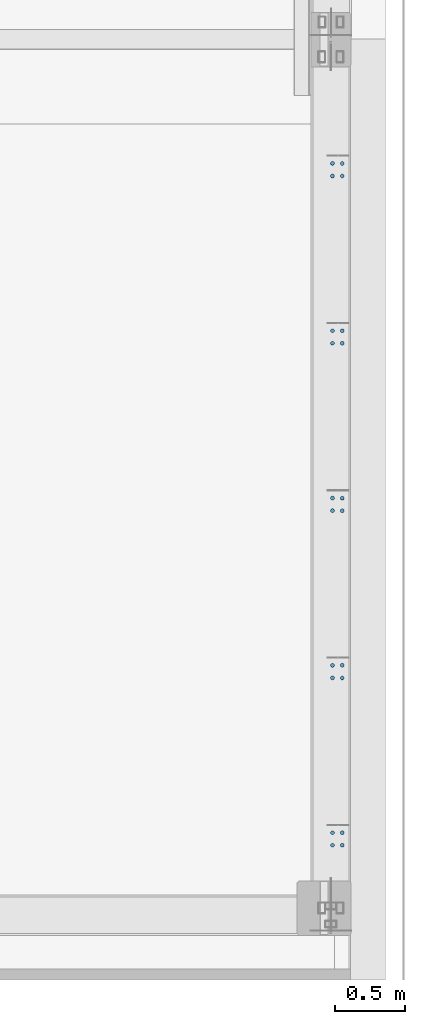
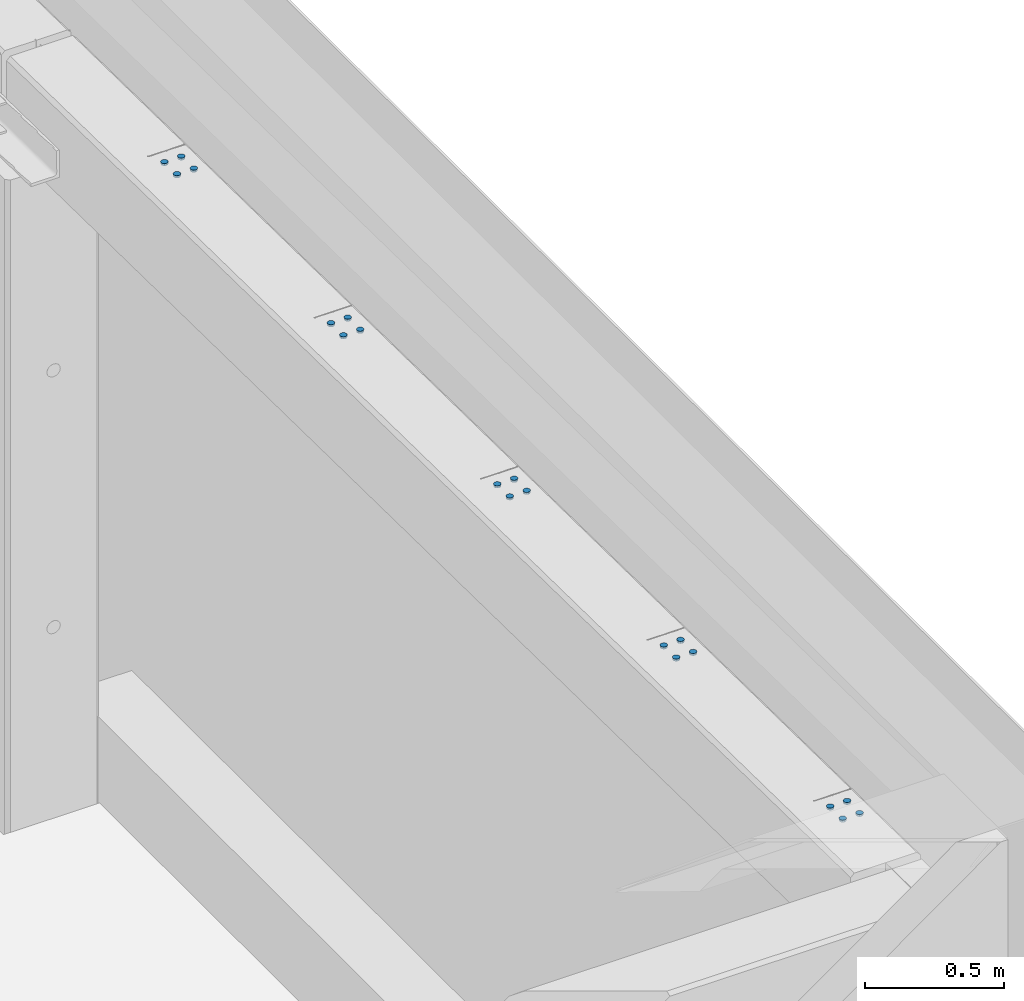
# One storey, part 4 of 186: 20 columns.
"""IFC4X3_ADD2 building model written with IfcOpenShell, lengths in millimetres."""

from ifc_helpers import new_model, si_unit, direction, frame, origin_with_axes, place, context, subcontext, project, spatial, polyline, outline, extrude, element, save


model = new_model("IFC4X3_ADD2")

# Units and contexts
model_context = context("Model", 3, precision=1e-05, world=origin_with_axes(), true_north=direction((0.0, 1.0)))
body_context = subcontext(model_context, "Body", "Model", "MODEL_VIEW")
ifc_project = project(units=[si_unit("LENGTHUNIT", "METRE", prefix="MILLI"), si_unit("AREAUNIT", "SQUARE_METRE"), si_unit("VOLUMEUNIT", "CUBIC_METRE"), si_unit("PLANEANGLEUNIT", "RADIAN"), si_unit("TIMEUNIT", "SECOND"), si_unit("MASSUNIT", "GRAM")], contexts=[model_context])

# Site, building, storey
site_placement = place(None, origin_with_axes())
site = spatial("IfcSite", under=ifc_project, at=site_placement, Name="Site", CompositionType="ELEMENT")
building_placement = place(site_placement, origin_with_axes())
building = spatial("IfcBuilding", under=site, at=building_placement, Name="IFC Building Story")
storey_placement = place(building_placement, frame((0.0, 0.0, 4370.0), z_axis=(0.0, 0.0, 1.0), x_axis=(1.0, 0.0, 0.0)))
storey = spatial("IfcBuildingStorey", under=building, at=storey_placement, Name="ETAGE 10 (1)", Elevation=4370.0)

# Columns
column_1_placement = place(storey_placement, frame((48432.12972448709, -8996.891525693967, 3279.524493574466), z_axis=(0.0, 0.01500926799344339, 0.9998873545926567), x_axis=(-0.2588190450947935, -0.9658170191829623, 0.01449783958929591)))
element("IfcColumn", 1, at=column_1_placement, inside=storey, Name="ZW9", ObjectType="D28", context=body_context, shape_type="SweptSolid", body=[
    extrude(outline(polyline([(-13.52296156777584, -3.623466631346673), (-13.52296156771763, 3.623466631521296), (-9.899494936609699, 9.899494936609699), (-3.623466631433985, 13.52296156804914), (3.623466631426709, 13.52296156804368), (9.89949493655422, 9.899494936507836), (13.52296156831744, 3.623466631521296), (13.52296156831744, -3.623466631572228), (9.899494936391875, -9.899494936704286), (3.623466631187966, -13.52296156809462), (-3.623466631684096, -13.52296156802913), (-9.899494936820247, -9.899494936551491), (-13.52296156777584, -3.623466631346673)])), frame((13.66736604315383, 13.56262032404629, -0.04070861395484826), z_axis=(0.0, 0.0, 1.0), x_axis=(1.0, 0.0, 0.0)), (0.0, 0.0, 1.0), 10.00000000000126),
])
column_2_placement = place(storey_placement, frame((48362.1297244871, -8996.89152569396, 3279.524493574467), z_axis=(0.0, 0.01500926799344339, 0.9998873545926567), x_axis=(-0.2588190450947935, -0.9658170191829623, 0.01449783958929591)))
element("IfcColumn", 2, at=column_2_placement, inside=storey, Name="ZW9", ObjectType="D28", context=body_context, shape_type="SweptSolid", body=[
    extrude(outline(polyline([(-13.52296156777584, -3.623466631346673), (-13.52296156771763, 3.623466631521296), (-9.899494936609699, 9.899494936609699), (-3.623466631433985, 13.52296156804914), (3.623466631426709, 13.52296156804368), (9.89949493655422, 9.899494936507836), (13.52296156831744, 3.623466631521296), (13.52296156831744, -3.623466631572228), (9.89949493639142, -9.899494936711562), (3.623466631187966, -13.52296156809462), (-3.623466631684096, -13.52296156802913), (-9.899494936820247, -9.899494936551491), (-13.52296156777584, -3.623466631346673)])), frame((13.66736604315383, 13.56262032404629, -0.04070861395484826), z_axis=(0.0, 0.0, 1.0), x_axis=(1.0, 0.0, 0.0)), (0.0, 0.0, 1.0), 10.0000000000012),
])
column_3_placement = place(storey_placement, frame((48362.1297244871, -8906.901663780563, 3278.17365945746), z_axis=(0.0, 0.01500926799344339, 0.9998873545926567), x_axis=(-0.2588190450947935, -0.9658170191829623, 0.01449783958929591)))
element("IfcColumn", 3, at=column_3_placement, inside=storey, Name="ZW9", ObjectType="D28", context=body_context, shape_type="SweptSolid", body=[
    extrude(outline(polyline([(-13.52296156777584, -3.623466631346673), (-13.52296156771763, 3.623466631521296), (-9.899494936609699, 9.899494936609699), (-3.623466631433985, 13.52296156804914), (3.623466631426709, 13.52296156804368), (9.89949493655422, 9.899494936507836), (13.52296156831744, 3.623466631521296), (13.52296156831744, -3.623466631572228), (9.899494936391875, -9.899494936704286), (3.623466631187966, -13.52296156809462), (-3.623466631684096, -13.52296156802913), (-9.899494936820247, -9.899494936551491), (-13.52296156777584, -3.623466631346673)])), frame((13.66736604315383, 13.56262032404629, -0.04070861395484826), z_axis=(0.0, 0.0, 1.0), x_axis=(1.0, 0.0, 0.0)), (0.0, 0.0, 1.0), 10.00000000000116),
])
column_4_placement = place(storey_placement, frame((48432.12972448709, -8906.901663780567, 3278.17365945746), z_axis=(0.0, 0.01500926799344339, 0.9998873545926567), x_axis=(-0.2588190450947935, -0.9658170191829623, 0.01449783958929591)))
element("IfcColumn", 4, at=column_4_placement, inside=storey, Name="ZW9", ObjectType="D28", context=body_context, shape_type="SweptSolid", body=[
    extrude(outline(polyline([(-13.52296156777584, -3.623466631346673), (-13.52296156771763, 3.623466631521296), (-9.899494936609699, 9.899494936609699), (-3.623466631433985, 13.52296156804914), (3.623466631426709, 13.52296156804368), (9.89949493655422, 9.899494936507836), (13.52296156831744, 3.623466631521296), (13.52296156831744, -3.623466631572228), (9.899494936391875, -9.899494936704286), (3.623466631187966, -13.52296156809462), (-3.623466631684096, -13.52296156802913), (-9.899494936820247, -9.899494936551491), (-13.52296156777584, -3.623466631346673)])), frame((13.66736604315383, 13.56262032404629, -0.04070861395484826), z_axis=(0.0, 0.0, 1.0), x_axis=(1.0, 0.0, 0.0)), (0.0, 0.0, 1.0), 10.00000000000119),
])
column_5_placement = place(storey_placement, frame((48432.12972448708, -10196.89228863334, 3298.177493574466), z_axis=(0.0, 0.01500926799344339, 0.9998873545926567), x_axis=(-0.2588190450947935, -0.9658170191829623, 0.01449783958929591)))
element("IfcColumn", 5, at=column_5_placement, inside=storey, Name="ZW9", ObjectType="D28", context=body_context, shape_type="SweptSolid", body=[
    extrude(outline(polyline([(-13.52296156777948, -3.623466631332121), (-13.52296156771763, 3.623466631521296), (-9.899494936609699, 9.899494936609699), (-3.623466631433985, 13.52296156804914), (3.623466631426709, 13.52296156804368), (9.89949493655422, 9.899494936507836), (13.52296156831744, 3.623466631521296), (13.52296156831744, -3.623466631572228), (9.899494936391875, -9.899494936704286), (3.623466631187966, -13.52296156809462), (-3.623466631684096, -13.52296156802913), (-9.899494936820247, -9.899494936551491), (-13.52296156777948, -3.623466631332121)])), frame((13.66736604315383, 13.56262032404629, -0.04070861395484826), z_axis=(0.0, 0.0, 1.0), x_axis=(1.0, 0.0, 0.0)), (0.0, 0.0, 1.0), 10.00000000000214),
])
column_6_placement = place(storey_placement, frame((48362.1297244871, -10196.89228863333, 3298.177493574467), z_axis=(0.0, 0.01500926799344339, 0.9998873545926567), x_axis=(-0.2588190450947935, -0.9658170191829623, 0.01449783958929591)))
element("IfcColumn", 6, at=column_6_placement, inside=storey, Name="ZW9", ObjectType="D28", context=body_context, shape_type="SweptSolid", body=[
    extrude(outline(polyline([(-13.52296156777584, -3.623466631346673), (-13.52296156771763, 3.623466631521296), (-9.899494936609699, 9.899494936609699), (-3.623466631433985, 13.52296156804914), (3.623466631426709, 13.52296156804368), (9.89949493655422, 9.899494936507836), (13.52296156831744, 3.623466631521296), (13.52296156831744, -3.623466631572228), (9.89949493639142, -9.899494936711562), (3.623466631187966, -13.52296156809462), (-3.623466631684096, -13.52296156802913), (-9.899494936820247, -9.899494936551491), (-13.52296156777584, -3.623466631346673)])), frame((13.66736604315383, 13.56262032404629, -0.04070861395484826), z_axis=(0.0, 0.0, 1.0), x_axis=(1.0, 0.0, 0.0)), (0.0, 0.0, 1.0), 10.00000000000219),
])
column_7_placement = place(storey_placement, frame((48362.1297244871, -10106.90242671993, 3296.826659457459), z_axis=(0.0, 0.01500926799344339, 0.9998873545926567), x_axis=(-0.2588190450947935, -0.9658170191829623, 0.01449783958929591)))
element("IfcColumn", 7, at=column_7_placement, inside=storey, Name="ZW9", ObjectType="D28", context=body_context, shape_type="SweptSolid", body=[
    extrude(outline(polyline([(-13.52296156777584, -3.623466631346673), (-13.52296156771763, 3.623466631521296), (-9.899494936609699, 9.899494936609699), (-3.623466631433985, 13.52296156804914), (3.623466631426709, 13.52296156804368), (9.89949493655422, 9.899494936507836), (13.52296156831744, 3.623466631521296), (13.52296156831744, -3.623466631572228), (9.899494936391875, -9.899494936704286), (3.623466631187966, -13.52296156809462), (-3.623466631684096, -13.52296156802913), (-9.899494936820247, -9.899494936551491), (-13.52296156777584, -3.623466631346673)])), frame((13.66736604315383, 13.56262032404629, -0.04070861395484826), z_axis=(0.0, 0.0, 1.0), x_axis=(1.0, 0.0, 0.0)), (0.0, 0.0, 1.0), 10.00000000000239),
])
column_8_placement = place(storey_placement, frame((48432.12972448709, -10106.90242671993, 3296.826659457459), z_axis=(0.0, 0.01500926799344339, 0.9998873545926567), x_axis=(-0.2588190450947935, -0.9658170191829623, 0.01449783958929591)))
element("IfcColumn", 8, at=column_8_placement, inside=storey, Name="ZW9", ObjectType="D28", context=body_context, shape_type="SweptSolid", body=[
    extrude(outline(polyline([(-13.52296156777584, -3.623466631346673), (-13.52296156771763, 3.623466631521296), (-9.899494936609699, 9.899494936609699), (-3.623466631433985, 13.52296156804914), (3.623466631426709, 13.52296156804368), (9.89949493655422, 9.899494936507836), (13.52296156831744, 3.623466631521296), (13.52296156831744, -3.623466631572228), (9.899494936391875, -9.899494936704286), (3.623466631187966, -13.52296156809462), (-3.623466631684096, -13.52296156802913), (-9.899494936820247, -9.899494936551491), (-13.52296156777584, -3.623466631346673)])), frame((13.66736604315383, 13.56262032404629, -0.04070861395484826), z_axis=(0.0, 0.0, 1.0), x_axis=(1.0, 0.0, 0.0)), (0.0, 0.0, 1.0), 10.0000000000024),
])
column_9_placement = place(storey_placement, frame((48432.12972448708, -11396.89305157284, 3316.82849357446), z_axis=(0.0, 0.01500926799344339, 0.9998873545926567), x_axis=(-0.2588190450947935, -0.9658170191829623, 0.01449783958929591)))
element("IfcColumn", 9, at=column_9_placement, inside=storey, Name="ZW9", ObjectType="D28", context=body_context, shape_type="SweptSolid", body=[
    extrude(outline(polyline([(-13.52296156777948, -3.623466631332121), (-13.52296156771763, 3.623466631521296), (-9.899494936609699, 9.899494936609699), (-3.623466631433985, 13.52296156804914), (3.623466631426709, 13.52296156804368), (9.89949493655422, 9.899494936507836), (13.52296156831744, 3.623466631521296), (13.52296156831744, -3.623466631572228), (9.89949493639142, -9.899494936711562), (3.623466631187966, -13.52296156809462), (-3.623466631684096, -13.52296156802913), (-9.899494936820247, -9.899494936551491), (-13.52296156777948, -3.623466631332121)])), frame((13.66736604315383, 13.56262032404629, -0.04070861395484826), z_axis=(0.0, 0.0, 1.0), x_axis=(1.0, 0.0, 0.0)), (0.0, 0.0, 1.0), 10.00000000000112),
])
column_10_placement = place(storey_placement, frame((48362.12972448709, -11396.89305157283, 3316.82849357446), z_axis=(0.0, 0.01500926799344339, 0.9998873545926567), x_axis=(-0.2588190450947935, -0.9658170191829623, 0.01449783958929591)))
element("IfcColumn", 10, at=column_10_placement, inside=storey, Name="ZW9", ObjectType="D28", context=body_context, shape_type="SweptSolid", body=[
    extrude(outline(polyline([(-13.52296156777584, -3.623466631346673), (-13.52296156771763, 3.623466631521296), (-9.899494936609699, 9.899494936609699), (-3.623466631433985, 13.52296156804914), (3.623466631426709, 13.52296156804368), (9.89949493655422, 9.899494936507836), (13.52296156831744, 3.623466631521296), (13.52296156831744, -3.623466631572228), (9.899494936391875, -9.899494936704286), (3.623466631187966, -13.52296156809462), (-3.623466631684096, -13.52296156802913), (-9.899494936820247, -9.899494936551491), (-13.52296156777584, -3.623466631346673)])), frame((13.66736604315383, 13.56262032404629, -0.04070861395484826), z_axis=(0.0, 0.0, 1.0), x_axis=(1.0, 0.0, 0.0)), (0.0, 0.0, 1.0), 10.00000000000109),
])
column_11_placement = place(storey_placement, frame((48362.1297244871, -11306.90318965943, 3315.477659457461), z_axis=(0.0, 0.01500926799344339, 0.9998873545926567), x_axis=(-0.2588190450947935, -0.9658170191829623, 0.01449783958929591)))
element("IfcColumn", 11, at=column_11_placement, inside=storey, Name="ZW9", ObjectType="D28", context=body_context, shape_type="SweptSolid", body=[
    extrude(outline(polyline([(-13.52296156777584, -3.623466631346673), (-13.52296156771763, 3.623466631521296), (-9.899494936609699, 9.899494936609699), (-3.623466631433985, 13.52296156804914), (3.623466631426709, 13.52296156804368), (9.89949493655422, 9.899494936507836), (13.52296156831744, 3.623466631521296), (13.52296156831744, -3.623466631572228), (9.89949493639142, -9.899494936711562), (3.623466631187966, -13.52296156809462), (-3.623466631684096, -13.52296156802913), (-9.899494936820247, -9.899494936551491), (-13.52296156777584, -3.623466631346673)])), frame((13.66736604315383, 13.56262032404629, -0.04070861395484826), z_axis=(0.0, 0.0, 1.0), x_axis=(1.0, 0.0, 0.0)), (0.0, 0.0, 1.0), 10.00000000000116),
])
column_12_placement = place(storey_placement, frame((48432.12972448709, -11306.90318965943, 3315.47765945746), z_axis=(0.0, 0.01500926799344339, 0.9998873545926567), x_axis=(-0.2588190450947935, -0.9658170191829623, 0.01449783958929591)))
element("IfcColumn", 12, at=column_12_placement, inside=storey, Name="ZW9", ObjectType="D28", context=body_context, shape_type="SweptSolid", body=[
    extrude(outline(polyline([(-13.52296156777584, -3.623466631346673), (-13.52296156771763, 3.623466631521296), (-9.899494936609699, 9.899494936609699), (-3.623466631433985, 13.52296156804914), (3.623466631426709, 13.52296156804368), (9.89949493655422, 9.899494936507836), (13.52296156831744, 3.623466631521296), (13.52296156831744, -3.623466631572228), (9.899494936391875, -9.899494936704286), (3.623466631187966, -13.52296156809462), (-3.623466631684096, -13.52296156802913), (-9.899494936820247, -9.899494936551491), (-13.52296156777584, -3.623466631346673)])), frame((13.66736604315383, 13.56262032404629, -0.04070861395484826), z_axis=(0.0, 0.0, 1.0), x_axis=(1.0, 0.0, 0.0)), (0.0, 0.0, 1.0), 10.00000000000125),
])
column_13_placement = place(storey_placement, frame((48432.12972448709, -12596.89190716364, 3335.480493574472), z_axis=(0.0, 0.01500926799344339, 0.9998873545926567), x_axis=(-0.2588190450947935, -0.9658170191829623, 0.01449783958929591)))
element("IfcColumn", 13, at=column_13_placement, inside=storey, Name="ZW9", ObjectType="D28", context=body_context, shape_type="SweptSolid", body=[
    extrude(outline(polyline([(-13.52296156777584, -3.623466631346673), (-13.52296156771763, 3.623466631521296), (-9.899494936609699, 9.899494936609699), (-3.623466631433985, 13.52296156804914), (3.623466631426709, 13.52296156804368), (9.89949493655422, 9.899494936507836), (13.52296156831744, 3.623466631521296), (13.52296156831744, -3.623466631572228), (9.899494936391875, -9.899494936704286), (3.623466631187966, -13.52296156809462), (-3.623466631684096, -13.52296156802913), (-9.899494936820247, -9.899494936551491), (-13.52296156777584, -3.623466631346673)])), frame((13.66736604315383, 13.56262032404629, -0.04070861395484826), z_axis=(0.0, 0.0, 1.0), x_axis=(1.0, 0.0, 0.0)), (0.0, 0.0, 1.0), 9.999999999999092),
])
column_14_placement = place(storey_placement, frame((48362.12972448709, -12596.89190716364, 3335.480493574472), z_axis=(0.0, 0.01500926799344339, 0.9998873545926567), x_axis=(-0.2588190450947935, -0.9658170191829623, 0.01449783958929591)))
element("IfcColumn", 14, at=column_14_placement, inside=storey, Name="ZW9", ObjectType="D28", context=body_context, shape_type="SweptSolid", body=[
    extrude(outline(polyline([(-13.52296156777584, -3.623466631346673), (-13.52296156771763, 3.623466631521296), (-9.899494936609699, 9.899494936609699), (-3.623466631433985, 13.52296156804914), (3.623466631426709, 13.52296156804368), (9.89949493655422, 9.899494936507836), (13.52296156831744, 3.623466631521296), (13.52296156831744, -3.623466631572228), (9.89949493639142, -9.899494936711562), (3.623466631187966, -13.52296156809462), (-3.623466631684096, -13.52296156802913), (-9.899494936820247, -9.899494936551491), (-13.52296156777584, -3.623466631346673)])), frame((13.66736604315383, 13.56262032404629, -0.04070861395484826), z_axis=(0.0, 0.0, 1.0), x_axis=(1.0, 0.0, 0.0)), (0.0, 0.0, 1.0), 9.999999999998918),
])
column_15_placement = place(storey_placement, frame((48362.12972448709, -12506.90204525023, 3334.129659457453), z_axis=(0.0, 0.01500926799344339, 0.9998873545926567), x_axis=(-0.2588190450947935, -0.9658170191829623, 0.01449783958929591)))
element("IfcColumn", 15, at=column_15_placement, inside=storey, Name="ZW9", ObjectType="D28", context=body_context, shape_type="SweptSolid", body=[
    extrude(outline(polyline([(-13.52296156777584, -3.623466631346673), (-13.52296156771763, 3.623466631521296), (-9.899494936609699, 9.899494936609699), (-3.623466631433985, 13.52296156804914), (3.623466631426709, 13.52296156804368), (9.89949493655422, 9.899494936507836), (13.52296156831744, 3.623466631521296), (13.52296156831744, -3.623466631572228), (9.899494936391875, -9.899494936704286), (3.623466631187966, -13.52296156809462), (-3.623466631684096, -13.52296156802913), (-9.899494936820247, -9.899494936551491), (-13.52296156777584, -3.623466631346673)])), frame((13.66736604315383, 13.56262032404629, -0.04070861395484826), z_axis=(0.0, 0.0, 1.0), x_axis=(1.0, 0.0, 0.0)), (0.0, 0.0, 1.0), 10.00000000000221),
])
column_16_placement = place(storey_placement, frame((48432.12972448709, -12506.90204525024, 3334.129659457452), z_axis=(0.0, 0.01500926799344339, 0.9998873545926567), x_axis=(-0.2588190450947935, -0.9658170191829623, 0.01449783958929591)))
element("IfcColumn", 16, at=column_16_placement, inside=storey, Name="ZW9", ObjectType="D28", context=body_context, shape_type="SweptSolid", body=[
    extrude(outline(polyline([(-13.52296156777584, -3.623466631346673), (-13.52296156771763, 3.623466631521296), (-9.899494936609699, 9.899494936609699), (-3.623466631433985, 13.52296156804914), (3.623466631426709, 13.52296156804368), (9.89949493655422, 9.899494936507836), (13.52296156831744, 3.623466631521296), (13.52296156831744, -3.623466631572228), (9.89949493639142, -9.899494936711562), (3.623466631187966, -13.52296156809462), (-3.623466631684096, -13.52296156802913), (-9.899494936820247, -9.899494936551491), (-13.52296156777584, -3.623466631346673)])), frame((13.66736604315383, 13.56262032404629, -0.04070861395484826), z_axis=(0.0, 0.0, 1.0), x_axis=(1.0, 0.0, 0.0)), (0.0, 0.0, 1.0), 10.00000000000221),
])
for number, where, z_axis, x_axis, name in (
    (17, (48432.12972448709, -13796.89267010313, 3354.133493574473), (0.0, 0.01500926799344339, 0.9998873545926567), (-0.2588190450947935, -0.9658170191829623, 0.01449783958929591), "ZW9"),
    (18, (48362.1297244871, -13796.89267010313, 3354.133493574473), (0.0, 0.01500926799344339, 0.9998873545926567), (-0.2588190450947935, -0.9658170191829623, 0.01449783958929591), "ZW9"),
):
    element("IfcColumn", number, at=place(storey_placement, frame(where, z_axis=z_axis, x_axis=x_axis)), inside=storey, Name=name, ObjectType="D28", context=body_context, shape_type="SweptSolid", body=[
        extrude(outline(polyline([(-13.52296156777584, -3.623466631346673), (-13.52296156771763, 3.623466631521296), (-9.899494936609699, 9.899494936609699), (-3.623466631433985, 13.52296156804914), (3.623466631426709, 13.52296156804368), (9.89949493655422, 9.899494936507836), (13.52296156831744, 3.623466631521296), (13.52296156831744, -3.623466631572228), (9.899494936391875, -9.899494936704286), (3.623466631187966, -13.52296156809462), (-3.623466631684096, -13.52296156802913), (-9.899494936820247, -9.899494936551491), (-13.52296156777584, -3.623466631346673)])), frame((13.66736604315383, 13.56262032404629, -0.04070861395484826), z_axis=(0.0, 0.0, 1.0), x_axis=(1.0, 0.0, 0.0)), (0.0, 0.0, 1.0), 10.0),
    ])
column_17_placement = place(storey_placement, frame((48362.12972448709, -13706.90280818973, 3352.782659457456), z_axis=(0.0, 0.01500926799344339, 0.9998873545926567), x_axis=(-0.2588190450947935, -0.9658170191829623, 0.01449783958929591)))
element("IfcColumn", 19, at=column_17_placement, inside=storey, Name="ZW9", ObjectType="D28", context=body_context, shape_type="SweptSolid", body=[
    extrude(outline(polyline([(-13.52296156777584, -3.623466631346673), (-13.52296156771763, 3.623466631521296), (-9.899494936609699, 9.899494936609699), (-3.623466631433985, 13.52296156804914), (3.623466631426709, 13.52296156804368), (9.89949493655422, 9.899494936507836), (13.52296156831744, 3.623466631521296), (13.52296156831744, -3.623466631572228), (9.899494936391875, -9.899494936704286), (3.623466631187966, -13.52296156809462), (-3.623466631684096, -13.52296156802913), (-9.899494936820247, -9.899494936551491), (-13.52296156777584, -3.623466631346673)])), frame((13.66736604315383, 13.56262032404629, -0.04070861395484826), z_axis=(0.0, 0.0, 1.0), x_axis=(1.0, 0.0, 0.0)), (0.0, 0.0, 1.0), 10.00000000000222),
])
column_18_placement = place(storey_placement, frame((48432.12972448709, -13706.90280818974, 3352.782659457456), z_axis=(0.0, 0.01500926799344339, 0.9998873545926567), x_axis=(-0.2588190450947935, -0.9658170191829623, 0.01449783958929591)))
element("IfcColumn", 20, at=column_18_placement, inside=storey, Name="ZW9", ObjectType="D28", context=body_context, shape_type="SweptSolid", body=[
    extrude(outline(polyline([(-13.52296156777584, -3.623466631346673), (-13.52296156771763, 3.623466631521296), (-9.899494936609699, 9.899494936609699), (-3.623466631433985, 13.52296156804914), (3.623466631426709, 13.52296156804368), (9.89949493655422, 9.899494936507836), (13.52296156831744, 3.623466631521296), (13.52296156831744, -3.623466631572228), (9.899494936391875, -9.899494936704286), (3.623466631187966, -13.52296156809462), (-3.623466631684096, -13.52296156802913), (-9.899494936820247, -9.899494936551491), (-13.52296156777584, -3.623466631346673)])), frame((13.66736604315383, 13.56262032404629, -0.04070861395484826), z_axis=(0.0, 0.0, 1.0), x_axis=(1.0, 0.0, 0.0)), (0.0, 0.0, 1.0), 10.00000000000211),
])

save(model, "model.ifc")
